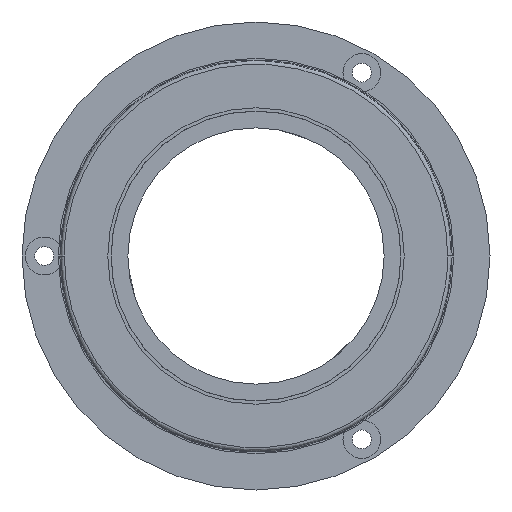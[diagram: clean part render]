
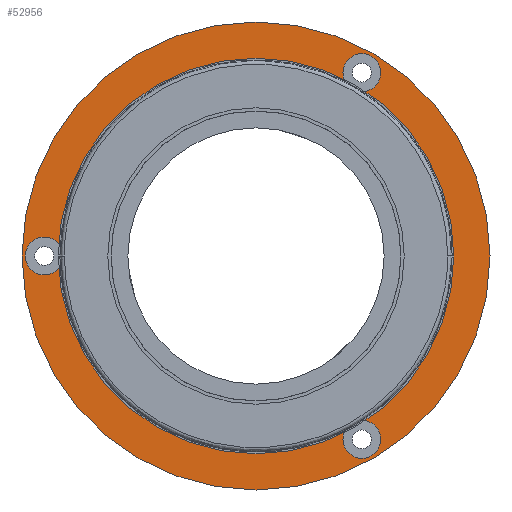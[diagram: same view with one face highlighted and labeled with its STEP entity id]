
A CAD part, left-side view. The second image highlights one B-rep face of the part: STEP entity #52956.
In plain terms, the highlighted planar face has unit normal (-1, 0, 0).
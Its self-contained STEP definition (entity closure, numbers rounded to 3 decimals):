
#271 = EDGE_CURVE ( 'NONE', #61427, #28764, #32187, .T. ) ;
#2113 = CARTESIAN_POINT ( 'NONE',  ( 2.8, -15., 0. ) ) ;
#2387 = AXIS2_PLACEMENT_3D ( 'NONE', #9869, #19255, #33435 ) ;
#5223 = CIRCLE ( 'NONE', #52046, 1.7 ) ;
#5416 = DIRECTION ( 'NONE',  ( 1., 0., 0. ) ) ;
#5747 = AXIS2_PLACEMENT_3D ( 'NONE', #25821, #5416, #60157 ) ;
#6122 = EDGE_CURVE ( 'NONE', #58052, #40831, #50585, .T. ) ;
#6705 = DIRECTION ( 'NONE',  ( 0., -1., 0. ) ) ;
#7139 = DIRECTION ( 'NONE',  ( 0., -1., 0. ) ) ;
#7152 = EDGE_CURVE ( 'NONE', #19973, #42249, #18977, .T. ) ;
#7241 = DIRECTION ( 'NONE',  ( 0., -1., 0. ) ) ;
#8676 = FACE_OUTER_BOUND ( 'NONE', #15660, .T. ) ;
#9601 = CARTESIAN_POINT ( 'NONE',  ( 2.8, 19., 0. ) ) ;
#9664 = VERTEX_POINT ( 'NONE', #55016 ) ;
#9869 = CARTESIAN_POINT ( 'NONE',  ( 2.8, 0., 0. ) ) ;
#9965 = CARTESIAN_POINT ( 'NONE',  ( 2.8, -21., 0. ) ) ;
#10655 = VERTEX_POINT ( 'NONE', #2113 ) ;
#10818 = CIRCLE ( 'NONE', #29209, 21. ) ;
#10943 = AXIS2_PLACEMENT_3D ( 'NONE', #9601, #33823, #14505 ) ;
#11757 = FACE_BOUND ( 'NONE', #41688, .T. ) ;
#14505 = DIRECTION ( 'NONE',  ( 0., -1., 0. ) ) ;
#14906 = EDGE_CURVE ( 'NONE', #9664, #10655, #59359, .T. ) ;
#15436 = AXIS2_PLACEMENT_3D ( 'NONE', #36091, #35464, #6705 ) ;
#15485 = AXIS2_PLACEMENT_3D ( 'NONE', #31846, #31624, #36774 ) ;
#15660 = EDGE_LOOP ( 'NONE', ( #34700, #48018 ) ) ;
#15710 = ORIENTED_EDGE ( 'NONE', *, *, #7152, .T. ) ;
#16671 = CARTESIAN_POINT ( 'NONE',  ( 2.8, 21., 0. ) ) ;
#16728 = EDGE_CURVE ( 'NONE', #42249, #19973, #55325, .T. ) ;
#16817 = EDGE_CURVE ( 'NONE', #44176, #31123, #10818, .T. ) ;
#17075 = EDGE_LOOP ( 'NONE', ( #53462, #15710 ) ) ;
#18977 = CIRCLE ( 'NONE', #10943, 1.7 ) ;
#19053 = AXIS2_PLACEMENT_3D ( 'NONE', #25377, #59080, #44271 ) ;
#19255 = DIRECTION ( 'NONE',  ( 1., 0., 0. ) ) ;
#19973 = VERTEX_POINT ( 'NONE', #34321 ) ;
#21378 = DIRECTION ( 'NONE',  ( -1., 0., 0. ) ) ;
#21691 = CARTESIAN_POINT ( 'NONE',  ( 2.8, 0., 0. ) ) ;
#24001 = FACE_BOUND ( 'NONE', #57163, .T. ) ;
#25267 = EDGE_CURVE ( 'NONE', #31123, #44176, #51332, .T. ) ;
#25377 = CARTESIAN_POINT ( 'NONE',  ( 2.8, 15., 0. ) ) ;
#25821 = CARTESIAN_POINT ( 'NONE',  ( 2.8, -9.5, -16.454 ) ) ;
#26068 = EDGE_CURVE ( 'NONE', #28764, #61427, #5223, .T. ) ;
#26676 = DIRECTION ( 'NONE',  ( 1., 0., 0. ) ) ;
#26972 = CARTESIAN_POINT ( 'NONE',  ( 2.8, 19., 0. ) ) ;
#27198 = CARTESIAN_POINT ( 'NONE',  ( 2.8, 0., 0. ) ) ;
#28764 = VERTEX_POINT ( 'NONE', #48313 ) ;
#29209 = AXIS2_PLACEMENT_3D ( 'NONE', #27198, #61535, #46283 ) ;
#31123 = VERTEX_POINT ( 'NONE', #9965 ) ;
#31624 = DIRECTION ( 'NONE',  ( 1., 0., 0. ) ) ;
#31637 = ORIENTED_EDGE ( 'NONE', *, *, #40426, .T. ) ;
#31681 = FACE_BOUND ( 'NONE', #17075, .T. ) ;
#31846 = CARTESIAN_POINT ( 'NONE',  ( 2.8, -9.5, 16.454 ) ) ;
#32187 = CIRCLE ( 'NONE', #5747, 1.7 ) ;
#33435 = DIRECTION ( 'NONE',  ( 0., 1., 0. ) ) ;
#33823 = DIRECTION ( 'NONE',  ( 1., 0., 0. ) ) ;
#34321 = CARTESIAN_POINT ( 'NONE',  ( 2.8, 20.7, 0. ) ) ;
#34700 = ORIENTED_EDGE ( 'NONE', *, *, #16817, .T. ) ;
#35464 = DIRECTION ( 'NONE',  ( 1., 0., 0. ) ) ;
#35978 = AXIS2_PLACEMENT_3D ( 'NONE', #21691, #56017, #37128 ) ;
#36091 = CARTESIAN_POINT ( 'NONE',  ( 2.8, -9.5, 16.454 ) ) ;
#36774 = DIRECTION ( 'NONE',  ( 0., -1., 0. ) ) ;
#37128 = DIRECTION ( 'NONE',  ( 0., 1., 0. ) ) ;
#37161 = CARTESIAN_POINT ( 'NONE',  ( 2.8, -9.5, -16.454 ) ) ;
#40426 = EDGE_CURVE ( 'NONE', #10655, #9664, #60454, .T. ) ;
#40831 = VERTEX_POINT ( 'NONE', #41517 ) ;
#41517 = CARTESIAN_POINT ( 'NONE',  ( 2.8, -7.8, 16.454 ) ) ;
#41688 = EDGE_LOOP ( 'NONE', ( #43135, #55435 ) ) ;
#41778 = DIRECTION ( 'NONE',  ( 1., 0., 0. ) ) ;
#42162 = ORIENTED_EDGE ( 'NONE', *, *, #6122, .T. ) ;
#42249 = VERTEX_POINT ( 'NONE', #58709 ) ;
#42413 = EDGE_CURVE ( 'NONE', #40831, #58052, #45718, .T. ) ;
#43135 = ORIENTED_EDGE ( 'NONE', *, *, #271, .T. ) ;
#44154 = CARTESIAN_POINT ( 'NONE',  ( 2.8, -11.2, 16.454 ) ) ;
#44176 = VERTEX_POINT ( 'NONE', #16671 ) ;
#44271 = DIRECTION ( 'NONE',  ( 0., -1., 0. ) ) ;
#45718 = CIRCLE ( 'NONE', #15485, 1.7 ) ;
#46283 = DIRECTION ( 'NONE',  ( 0., 1., 0. ) ) ;
#48018 = ORIENTED_EDGE ( 'NONE', *, *, #25267, .T. ) ;
#48313 = CARTESIAN_POINT ( 'NONE',  ( 2.8, -7.8, -16.454 ) ) ;
#49421 = PLANE ( 'NONE',  #19053 ) ;
#50585 = CIRCLE ( 'NONE', #15436, 1.7 ) ;
#50909 = FACE_BOUND ( 'NONE', #51707, .T. ) ;
#51332 = CIRCLE ( 'NONE', #61935, 21. ) ;
#51627 = CARTESIAN_POINT ( 'NONE',  ( 2.8, 0., 0. ) ) ;
#51707 = EDGE_LOOP ( 'NONE', ( #42162, #56053 ) ) ;
#52046 = AXIS2_PLACEMENT_3D ( 'NONE', #37161, #26676, #7139 ) ;
#52956 = ADVANCED_FACE ( 'NONE', ( #8676, #24001, #50909, #11757, #31681 ), #49421, .T. ) ;
#53462 = ORIENTED_EDGE ( 'NONE', *, *, #16728, .T. ) ;
#53482 = AXIS2_PLACEMENT_3D ( 'NONE', #26972, #41778, #7241 ) ;
#53921 = ORIENTED_EDGE ( 'NONE', *, *, #14906, .T. ) ;
#55016 = CARTESIAN_POINT ( 'NONE',  ( 2.8, 15., 0. ) ) ;
#55325 = CIRCLE ( 'NONE', #53482, 1.7 ) ;
#55435 = ORIENTED_EDGE ( 'NONE', *, *, #26068, .T. ) ;
#55717 = DIRECTION ( 'NONE',  ( 0., 1., 0. ) ) ;
#56017 = DIRECTION ( 'NONE',  ( 1., 0., 0. ) ) ;
#56053 = ORIENTED_EDGE ( 'NONE', *, *, #42413, .T. ) ;
#57163 = EDGE_LOOP ( 'NONE', ( #53921, #31637 ) ) ;
#58052 = VERTEX_POINT ( 'NONE', #44154 ) ;
#58709 = CARTESIAN_POINT ( 'NONE',  ( 2.8, 17.3, 0. ) ) ;
#59080 = DIRECTION ( 'NONE',  ( -1., 0., 0. ) ) ;
#59359 = CIRCLE ( 'NONE', #2387, 15. ) ;
#60157 = DIRECTION ( 'NONE',  ( 0., -1., 0. ) ) ;
#60454 = CIRCLE ( 'NONE', #35978, 15. ) ;
#61427 = VERTEX_POINT ( 'NONE', #63022 ) ;
#61535 = DIRECTION ( 'NONE',  ( -1., 0., 0. ) ) ;
#61935 = AXIS2_PLACEMENT_3D ( 'NONE', #51627, #21378, #55717 ) ;
#63022 = CARTESIAN_POINT ( 'NONE',  ( 2.8, -11.2, -16.454 ) ) ;
